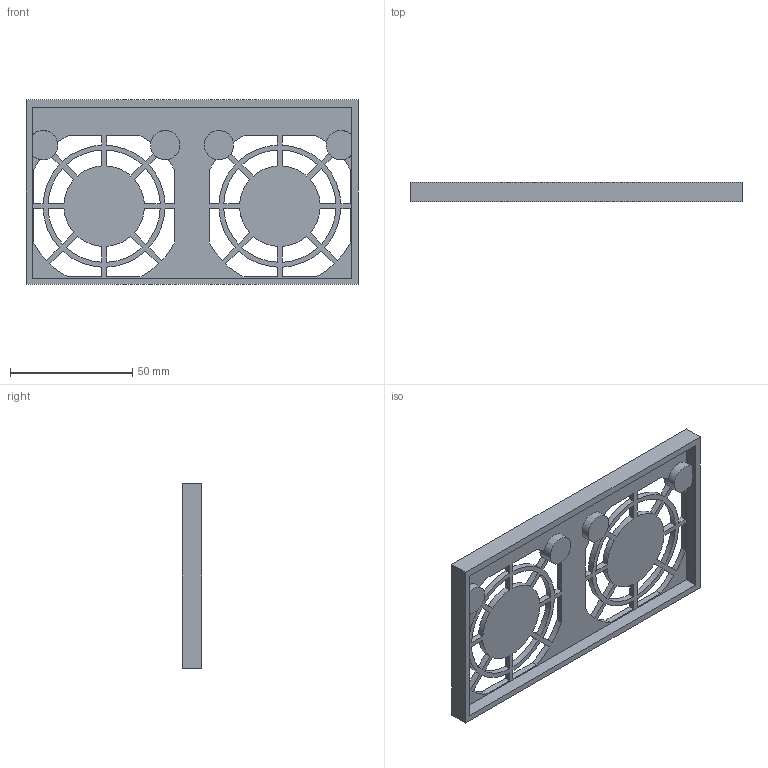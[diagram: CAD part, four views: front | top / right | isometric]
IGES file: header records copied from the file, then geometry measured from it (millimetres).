
Start section:  PTC IGES file: j4-700-fancover.igs
Global section: file name: j4-700-fancover.igs; native system: Pro/ENGINEER by Parametric Technology Corporation; preprocessor: 2010160; author: CV86875; organization: Unknown; date: 20121031.194043; units: millimetre
Bounding box: 136 x 8 x 75.6 mm (x, y, z)
Volume: 23984.1 mm3; surface area: 24065.6 mm2
Topology: 1 solids, 1 shells, 177 faces, 528 edges, 352 vertices
Faces by surface type: bspline 177
